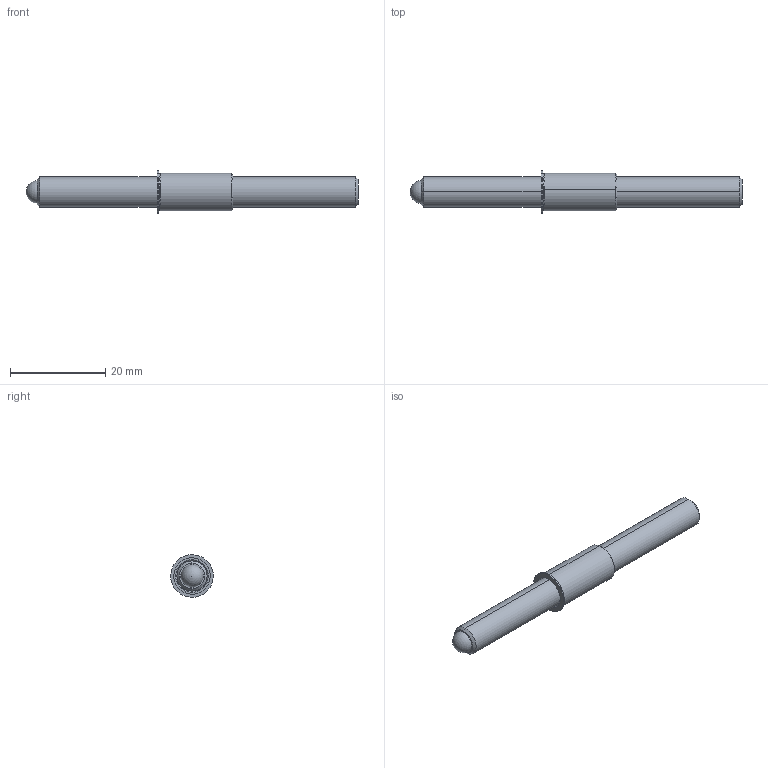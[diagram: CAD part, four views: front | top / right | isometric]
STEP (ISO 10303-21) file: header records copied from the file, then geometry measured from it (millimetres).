
FILE_DESCRIPTION (( 'STEP AP214' ), '1' );
FILE_NAME ('TSB250-80-2750_625-AA.STEP', '2013-03-14T13:22:06', ( 'workpc' ), ( 'Microsoft' ), 'SwSTEP 2.0', 'SolidWorks 2013', '' );
FILE_SCHEMA (( 'AUTOMOTIVE_DESIGN' ));
Length unit declared in the file: inch
Products named in the file (1): TSB250-80-2750_625-AA
Bounding box: 69.85 x 8.94 x 8.94 mm (x, y, z)
Surface area: 1926.1 mm2 (no closed solid volume)
Topology: 0 solids, 3 shells, 33 faces, 77 edges, 49 vertices
Faces by surface type: cone 12, plane 11, cylinder 8, sphere 2
Entity records: 1358 total; most frequent: DIRECTION 174, CARTESIAN_POINT 152, ORIENTED_EDGE 132, EDGE_CURVE 72, AXIS2_PLACEMENT_3D 68, VERTEX_POINT 46, VECTOR 38, LINE 38
